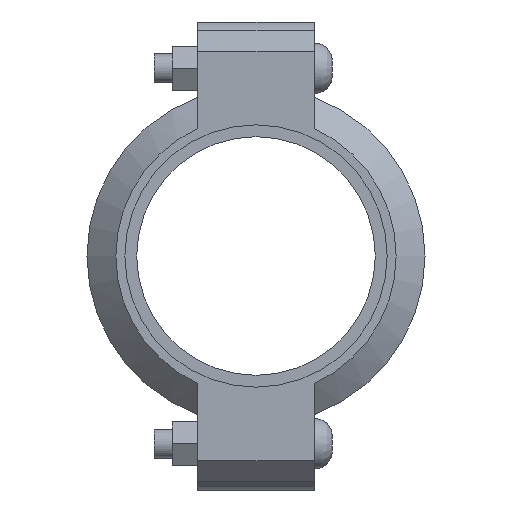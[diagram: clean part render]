
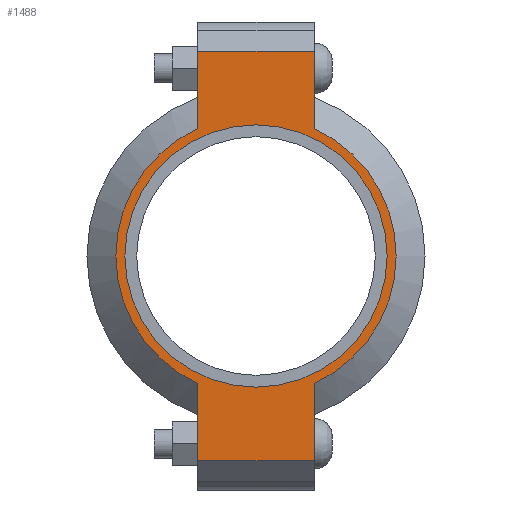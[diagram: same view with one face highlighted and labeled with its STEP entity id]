
A CAD part, left-side view. The second image highlights one B-rep face of the part: STEP entity #1488.
In plain terms, the highlighted planar face has unit normal (-1, 0, 0) as drawn and (0, 0, 1) by its records, which use the part's own axes.
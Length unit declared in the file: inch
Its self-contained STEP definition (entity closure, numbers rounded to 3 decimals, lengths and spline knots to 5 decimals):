
#168=LINE('',#2563,#259);
#176=LINE('',#2599,#267);
#183=LINE('',#2620,#274);
#192=LINE('',#2652,#283);
#193=LINE('',#2656,#284);
#194=LINE('',#2658,#285);
#259=VECTOR('',#2069,0.3937);
#267=VECTOR('',#2085,0.3937);
#274=VECTOR('',#2104,0.3937);
#283=VECTOR('',#2129,0.3937);
#284=VECTOR('',#2134,0.3937);
#285=VECTOR('',#2135,0.3937);
#337=FACE_BOUND('',#497,.T.);
#401=FACE_OUTER_BOUND('',#496,.T.);
#496=EDGE_LOOP('',(#1223,#1224,#1225,#1226,#1227,#1228,#1229,#1230));
#497=EDGE_LOOP('',(#1231));
#594=CIRCLE('',#1731,2.405);
#595=CIRCLE('',#1732,2.405);
#596=CIRCLE('',#1733,2.25);
#699=VERTEX_POINT('',#2560);
#700=VERTEX_POINT('',#2562);
#711=VERTEX_POINT('',#2594);
#712=VERTEX_POINT('',#2598);
#719=VERTEX_POINT('',#2617);
#720=VERTEX_POINT('',#2619);
#730=VERTEX_POINT('',#2655);
#731=VERTEX_POINT('',#2657);
#732=VERTEX_POINT('',#2660);
#863=EDGE_CURVE('',#700,#699,#168,.T.);
#877=EDGE_CURVE('',#712,#711,#176,.T.);
#887=EDGE_CURVE('',#720,#719,#183,.T.);
#902=EDGE_CURVE('',#712,#699,#192,.T.);
#903=EDGE_CURVE('',#711,#720,#594,.T.);
#904=EDGE_CURVE('',#730,#719,#193,.T.);
#905=EDGE_CURVE('',#730,#731,#194,.T.);
#906=EDGE_CURVE('',#731,#700,#595,.T.);
#907=EDGE_CURVE('',#732,#732,#596,.T.);
#1223=ORIENTED_EDGE('',*,*,#902,.F.);
#1224=ORIENTED_EDGE('',*,*,#877,.T.);
#1225=ORIENTED_EDGE('',*,*,#903,.T.);
#1226=ORIENTED_EDGE('',*,*,#887,.T.);
#1227=ORIENTED_EDGE('',*,*,#904,.F.);
#1228=ORIENTED_EDGE('',*,*,#905,.T.);
#1229=ORIENTED_EDGE('',*,*,#906,.T.);
#1230=ORIENTED_EDGE('',*,*,#863,.T.);
#1231=ORIENTED_EDGE('',*,*,#907,.T.);
#1342=PLANE('',#1730);
#1488=ADVANCED_FACE('',(#401,#337),#1342,.T.);
#1730=AXIS2_PLACEMENT_3D('',#2653,#2130,#2131);
#1731=AXIS2_PLACEMENT_3D('',#2654,#2132,#2133);
#1732=AXIS2_PLACEMENT_3D('',#2659,#2136,#2137);
#1733=AXIS2_PLACEMENT_3D('',#2661,#2138,#2139);
#2069=DIRECTION('',(-1.,0.,0.));
#2085=DIRECTION('',(1.,0.,0.));
#2104=DIRECTION('',(1.,0.,0.));
#2129=DIRECTION('',(0.,1.,0.));
#2130=DIRECTION('center_axis',(0.,0.,1.));
#2131=DIRECTION('ref_axis',(1.,0.,0.));
#2132=DIRECTION('center_axis',(0.,0.,1.));
#2133=DIRECTION('ref_axis',(-1.,0.,0.));
#2134=DIRECTION('',(0.,-1.,0.));
#2135=DIRECTION('',(-1.,0.,0.));
#2136=DIRECTION('center_axis',(0.,0.,1.));
#2137=DIRECTION('ref_axis',(-1.,0.,0.));
#2138=DIRECTION('center_axis',(0.,0.,-1.));
#2139=DIRECTION('ref_axis',(-1.,0.,0.));
#2560=CARTESIAN_POINT('',(-3.515,1.,1.065));
#2562=CARTESIAN_POINT('',(-2.18724,1.,1.065));
#2563=CARTESIAN_POINT('',(-4.015,1.,1.065));
#2594=CARTESIAN_POINT('',(-2.18724,-1.,1.065));
#2598=CARTESIAN_POINT('',(-3.515,-1.,1.065));
#2599=CARTESIAN_POINT('',(4.015,-1.,1.065));
#2617=CARTESIAN_POINT('',(3.515,-1.,1.065));
#2619=CARTESIAN_POINT('',(2.18724,-1.,1.065));
#2620=CARTESIAN_POINT('',(4.015,-1.,1.065));
#2652=CARTESIAN_POINT('',(-3.515,0.5,1.065));
#2653=CARTESIAN_POINT('Origin',(0.,0.,1.065));
#2654=CARTESIAN_POINT('Origin',(0.,0.,1.065));
#2655=CARTESIAN_POINT('',(3.515,1.,1.065));
#2656=CARTESIAN_POINT('',(3.515,-0.5,1.065));
#2657=CARTESIAN_POINT('',(2.18724,1.,1.065));
#2658=CARTESIAN_POINT('',(-4.015,1.,1.065));
#2659=CARTESIAN_POINT('Origin',(0.,0.,1.065));
#2660=CARTESIAN_POINT('',(2.25,0.,1.065));
#2661=CARTESIAN_POINT('Origin',(0.,0.,1.065));
